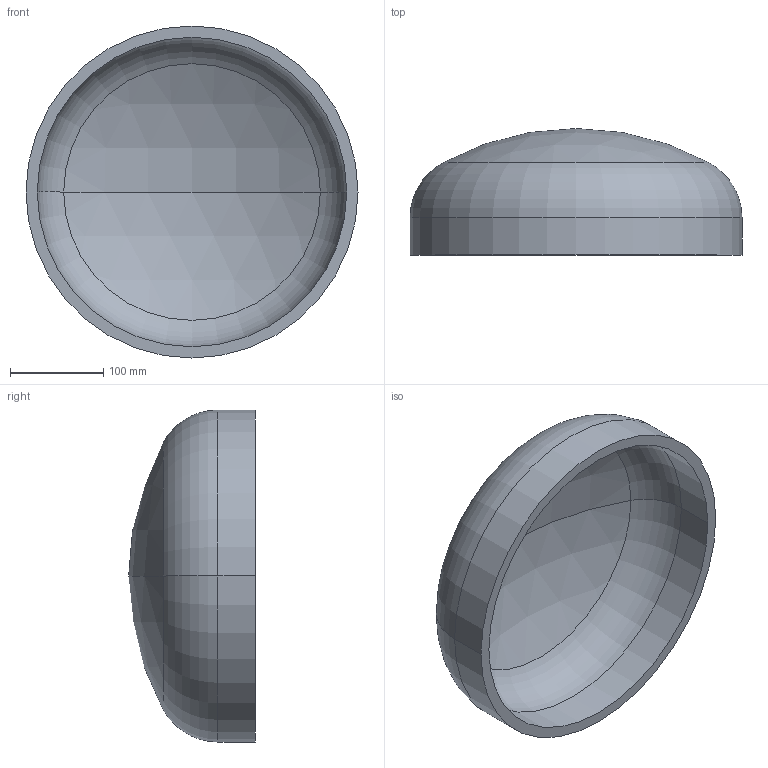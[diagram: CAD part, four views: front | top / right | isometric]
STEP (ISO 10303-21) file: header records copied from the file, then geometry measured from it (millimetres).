
FILE_DESCRIPTION (( 'STEP AP203' ), '1' );
FILE_NAME ('DIN 28013 Korbbogenform_-_Boden DIN 28013 - 355,6 x 40 - I - s=12.step', '2016-07-01T07:46:25', ( '' ), ( '' ), 'SwSTEP 2.0', 'SolidWorks 2013', '' );
FILE_SCHEMA (( 'CONFIG_CONTROL_DESIGN' ));
Length unit declared in the file: millimetre
Products named in the file (1): DIN 28013 Korbbogenform_-_Boden DIN 28013 - 355,6 x 40 - I - s=12
Bounding box: 355.6 x 135.59 x 355.6 mm (x, y, z)
Volume: 2099323.6 mm3; surface area: 363142.2 mm2
Topology: 1 solids, 1 shells, 13 faces, 24 edges, 14 vertices
Faces by surface type: torus 4, cylinder 4, sphere 4, plane 1
Entity records: 407 total; most frequent: DIRECTION 72, CARTESIAN_POINT 52, ORIENTED_EDGE 48, AXIS2_PLACEMENT_3D 34, EDGE_CURVE 24, CIRCLE 20, VERTEX_POINT 14, EDGE_LOOP 14
